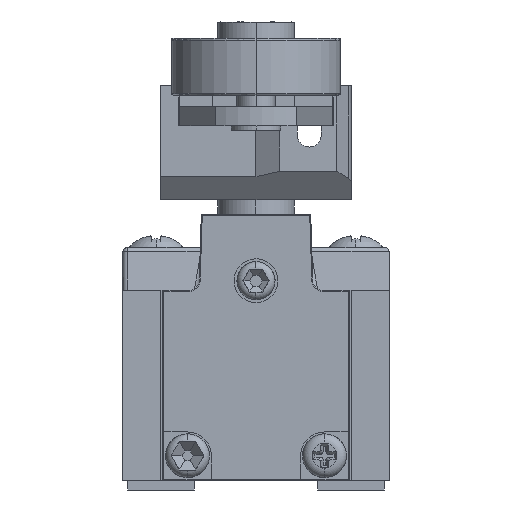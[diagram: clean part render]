
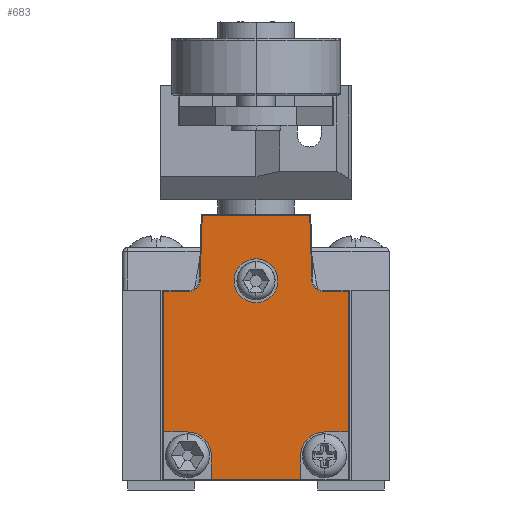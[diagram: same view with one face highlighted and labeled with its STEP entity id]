
A CAD part, left-side view. The second image highlights one B-rep face of the part: STEP entity #683.
In plain terms, the highlighted planar face has unit normal (-1, 0, 0).
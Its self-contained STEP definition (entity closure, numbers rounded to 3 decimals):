
#683=ADVANCED_FACE('',(#5230,#5232),#5234,.T.);
#5230=FACE_BOUND('',#5231,.T.);
#5231=EDGE_LOOP('',(#11020,#11021));
#5232=FACE_OUTER_BOUND('',#5233,.T.);
#5233=EDGE_LOOP('',(#11022,#11023,#11024,#11025,#11026,#11027,#11028,#11029,#11030,
#11031,#11032,#11033,#11034,#11035,#11036,#11037));
#5234=PLANE('',#5235);
#5235=AXIS2_PLACEMENT_3D('',#5236,#5237,#5238);
#5236=CARTESIAN_POINT('',(-20.,0.,0.));
#5237=DIRECTION('',(-1.,0.,0.));
#5238=DIRECTION('',(0.,0.,-1.));
#11020=ORIENTED_EDGE('',*,*,#14420,.T.);
#11021=ORIENTED_EDGE('',*,*,#14421,.T.);
#11022=ORIENTED_EDGE('',*,*,#14422,.F.);
#11023=ORIENTED_EDGE('',*,*,#14423,.T.);
#11024=ORIENTED_EDGE('',*,*,#14259,.T.);
#11025=ORIENTED_EDGE('',*,*,#14424,.T.);
#11026=ORIENTED_EDGE('',*,*,#14425,.F.);
#11027=ORIENTED_EDGE('',*,*,#14426,.T.);
#11028=ORIENTED_EDGE('',*,*,#14253,.T.);
#11029=ORIENTED_EDGE('',*,*,#14248,.T.);
#11030=ORIENTED_EDGE('',*,*,#14246,.T.);
#11031=ORIENTED_EDGE('',*,*,#14244,.T.);
#11032=ORIENTED_EDGE('',*,*,#14242,.T.);
#11033=ORIENTED_EDGE('',*,*,#14268,.T.);
#11034=ORIENTED_EDGE('',*,*,#14266,.T.);
#11035=ORIENTED_EDGE('',*,*,#14264,.T.);
#11036=ORIENTED_EDGE('',*,*,#14261,.T.);
#11037=ORIENTED_EDGE('',*,*,#14427,.T.);
#14242=EDGE_CURVE('',#17889,#17887,#17890,.T.);
#14244=EDGE_CURVE('',#17892,#17889,#17893,.T.);
#14246=EDGE_CURVE('',#17895,#17892,#17896,.T.);
#14248=EDGE_CURVE('',#17898,#17895,#17899,.T.);
#14253=EDGE_CURVE('',#17901,#17898,#17907,.T.);
#14259=EDGE_CURVE('',#17908,#17916,#17918,.T.);
#14261=EDGE_CURVE('',#17922,#17920,#17923,.T.);
#14264=EDGE_CURVE('',#17926,#17922,#17927,.T.);
#14266=EDGE_CURVE('',#17929,#17926,#17930,.T.);
#14268=EDGE_CURVE('',#17887,#17929,#17932,.T.);
#14420=EDGE_CURVE('',#18176,#18177,#18178,.F.);
#14421=EDGE_CURVE('',#18177,#18176,#18179,.F.);
#14422=EDGE_CURVE('',#18180,#18181,#18182,.T.);
#14423=EDGE_CURVE('',#18180,#17908,#18183,.F.);
#14424=EDGE_CURVE('',#17916,#18184,#18185,.F.);
#14425=EDGE_CURVE('',#18186,#18184,#18187,.T.);
#14426=EDGE_CURVE('',#18186,#17901,#18188,.F.);
#14427=EDGE_CURVE('',#17920,#18181,#18189,.F.);
#17887=VERTEX_POINT('',#25612);
#17889=VERTEX_POINT('',#25616);
#17890=LINE('',#25617,#25618);
#17892=VERTEX_POINT('',#25623);
#17893=LINE('',#25624,#25625);
#17895=VERTEX_POINT('',#25630);
#17896=CIRCLE('',#25631,1.1);
#17898=VERTEX_POINT('',#25638);
#17899=LINE('',#25639,#25640);
#17901=VERTEX_POINT('',#25645);
#17907=LINE('',#25657,#25658);
#17908=VERTEX_POINT('',#25660);
#17916=VERTEX_POINT('',#25676);
#17918=LINE('',#25680,#25681);
#17920=VERTEX_POINT('',#25684);
#17922=VERTEX_POINT('',#25688);
#17923=LINE('',#25689,#25690);
#17926=VERTEX_POINT('',#25698);
#17927=LINE('',#25699,#25700);
#17929=VERTEX_POINT('',#25705);
#17930=CIRCLE('',#25706,1.1);
#17932=LINE('',#25713,#25714);
#18176=VERTEX_POINT('',#26313);
#18177=VERTEX_POINT('',#26314);
#18178=(BOUNDED_CURVE()B_SPLINE_CURVE(3,
(#26315,#26316,#26317,#26318),
.UNSPECIFIED.,.F.,.F.)B_SPLINE_CURVE_WITH_KNOTS((4,4),
(0.,1.),
.UNSPECIFIED.)CURVE()GEOMETRIC_REPRESENTATION_ITEM()RATIONAL_B_SPLINE_CURVE((1.,
0.333,0.333,1.))REPRESENTATION_ITEM(''));
#18179=(BOUNDED_CURVE()B_SPLINE_CURVE(3,
(#26319,#26320,#26321,#26322),
.UNSPECIFIED.,.F.,.F.)B_SPLINE_CURVE_WITH_KNOTS((4,4),
(0.,1.),
.UNSPECIFIED.)CURVE()GEOMETRIC_REPRESENTATION_ITEM()RATIONAL_B_SPLINE_CURVE((1.,
0.333,0.333,1.))REPRESENTATION_ITEM(''));
#18180=VERTEX_POINT('',#26323);
#18181=VERTEX_POINT('',#26324);
#18182=CIRCLE('',#26325,2.5);
#18183=LINE('',#26329,#26330);
#18184=VERTEX_POINT('',#26332);
#18185=LINE('',#26333,#26334);
#18186=VERTEX_POINT('',#26336);
#18187=CIRCLE('',#26337,2.5);
#18188=LINE('',#26341,#26342);
#18189=LINE('',#26344,#26345);
#25612=CARTESIAN_POINT('',(-20.,5.653,27.9));
#25616=CARTESIAN_POINT('',(-20.,-5.653,27.9));
#25617=CARTESIAN_POINT('',(-20.,-5.653,27.9));
#25618=VECTOR('',#25619,1.);
#25619=DIRECTION('',(0.,1.,0.));
#25623=CARTESIAN_POINT('',(-20.,-5.87,20.966));
#25624=CARTESIAN_POINT('',(-20.,-5.87,20.966));
#25625=VECTOR('',#25626,1.);
#25626=DIRECTION('',(0.,0.031,1.));
#25630=CARTESIAN_POINT('',(-20.,-6.969,19.9));
#25631=AXIS2_PLACEMENT_3D('',#25632,#25633,#25634);
#25632=CARTESIAN_POINT('',(-20.,-6.969,21.));
#25633=DIRECTION('',(1.,0.,0.));
#25634=DIRECTION('',(0.,0.,-1.));
#25638=CARTESIAN_POINT('',(-20.,-9.7,19.9));
#25639=CARTESIAN_POINT('',(-20.,-9.7,19.9));
#25640=VECTOR('',#25641,1.);
#25641=DIRECTION('',(0.,1.,0.));
#25645=CARTESIAN_POINT('',(-20.,-9.7,5.1));
#25657=CARTESIAN_POINT('',(-20.,-9.7,5.1));
#25658=VECTOR('',#25659,1.);
#25659=DIRECTION('',(0.,0.,1.));
#25660=CARTESIAN_POINT('',(-20.,4.7,0.1));
#25676=CARTESIAN_POINT('',(-20.,-4.7,0.1));
#25680=CARTESIAN_POINT('',(-20.,4.7,0.1));
#25681=VECTOR('',#25682,1.);
#25682=DIRECTION('',(0.,-1.,0.));
#25684=CARTESIAN_POINT('',(-20.,9.7,5.1));
#25688=CARTESIAN_POINT('',(-20.,9.7,19.9));
#25689=CARTESIAN_POINT('',(-20.,9.7,19.9));
#25690=VECTOR('',#25691,1.);
#25691=DIRECTION('',(0.,0.,-1.));
#25698=CARTESIAN_POINT('',(-20.,6.969,19.9));
#25699=CARTESIAN_POINT('',(-20.,6.969,19.9));
#25700=VECTOR('',#25701,1.);
#25701=DIRECTION('',(0.,1.,0.));
#25705=CARTESIAN_POINT('',(-20.,5.87,20.966));
#25706=AXIS2_PLACEMENT_3D('',#25707,#25708,#25709);
#25707=CARTESIAN_POINT('',(-20.,6.969,21.));
#25708=DIRECTION('',(1.,0.,0.));
#25709=DIRECTION('',(0.,0.,-1.));
#25713=CARTESIAN_POINT('',(-20.,5.653,27.9));
#25714=VECTOR('',#25715,1.);
#25715=DIRECTION('',(0.,0.031,-1.));
#26313=CARTESIAN_POINT('',(-20.,0.,18.7));
#26314=CARTESIAN_POINT('',(-20.,0.,23.3));
#26315=CARTESIAN_POINT('',(-20.,0.,23.3));
#26316=CARTESIAN_POINT('',(-20.,4.6,23.3));
#26317=CARTESIAN_POINT('',(-20.,4.6,18.7));
#26318=CARTESIAN_POINT('',(-20.,0.,18.7));
#26319=CARTESIAN_POINT('',(-20.,0.,18.7));
#26320=CARTESIAN_POINT('',(-20.,-4.6,18.7));
#26321=CARTESIAN_POINT('',(-20.,-4.6,23.3));
#26322=CARTESIAN_POINT('',(-20.,0.,23.3));
#26323=CARTESIAN_POINT('',(-20.,4.7,2.6));
#26324=CARTESIAN_POINT('',(-20.,7.2,5.1));
#26325=AXIS2_PLACEMENT_3D('',#26326,#26327,#26328);
#26326=CARTESIAN_POINT('',(-20.,7.2,2.6));
#26327=DIRECTION('',(-1.,0.,0.));
#26328=DIRECTION('',(0.,0.,-1.));
#26329=CARTESIAN_POINT('',(-20.,4.7,0.1));
#26330=VECTOR('',#26331,1.);
#26331=DIRECTION('',(0.,0.,1.));
#26332=CARTESIAN_POINT('',(-20.,-4.7,2.6));
#26333=CARTESIAN_POINT('',(-20.,-4.7,2.6));
#26334=VECTOR('',#26335,1.);
#26335=DIRECTION('',(0.,0.,-1.));
#26336=CARTESIAN_POINT('',(-20.,-7.2,5.1));
#26337=AXIS2_PLACEMENT_3D('',#26338,#26339,#26340);
#26338=CARTESIAN_POINT('',(-20.,-7.2,2.6));
#26339=DIRECTION('',(-1.,0.,0.));
#26340=DIRECTION('',(0.,0.,-1.));
#26341=CARTESIAN_POINT('',(-20.,-9.7,5.1));
#26342=VECTOR('',#26343,1.);
#26343=DIRECTION('',(0.,1.,0.));
#26344=CARTESIAN_POINT('',(-20.,7.2,5.1));
#26345=VECTOR('',#26346,1.);
#26346=DIRECTION('',(0.,1.,0.));
